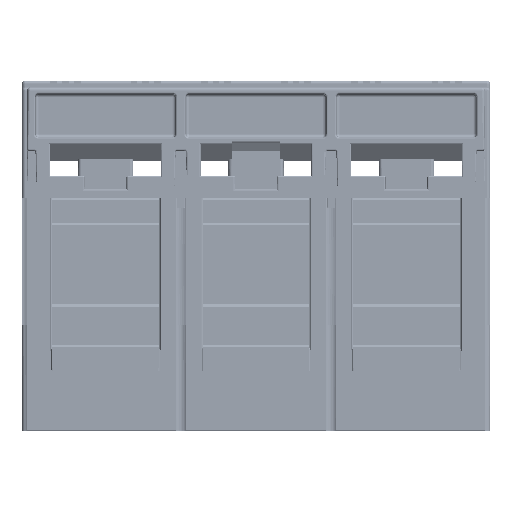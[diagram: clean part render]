
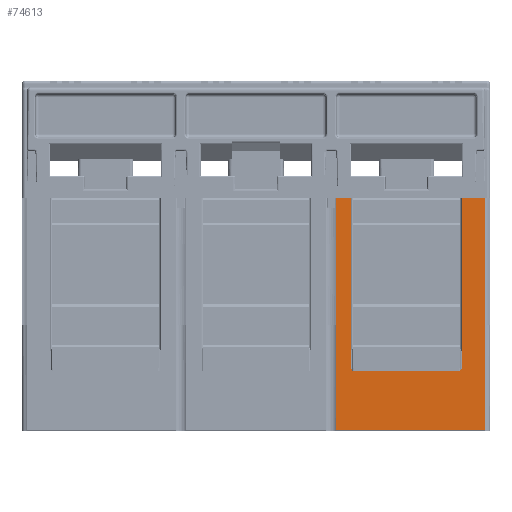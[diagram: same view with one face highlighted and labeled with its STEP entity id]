
A CAD part, front view. The second image highlights one B-rep face of the part: STEP entity #74613.
In plain terms, the highlighted planar face has unit normal (0, -1, 0).
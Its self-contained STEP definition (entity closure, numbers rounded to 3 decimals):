
#74529 = VERTEX_POINT ( 'NONE', #326181 ) ;
#74602 = EDGE_CURVE ( 'NONE', #177509, #74529, #326490, .T. ) ;
#74613 = ADVANCED_FACE ( 'NONE', ( #326439 ), #326522, .T. ) ;
#74615 = EDGE_LOOP ( 'NONE', ( #74619, #74623, #74633, #138156, #138162, #138170, #138187, #138199, #138218, #138225 ) ) ;
#74619 = ORIENTED_EDGE ( 'NONE', *, *, #74602, .T. ) ;
#74623 = ORIENTED_EDGE ( 'NONE', *, *, #74625, .T. ) ;
#74625 = EDGE_CURVE ( 'NONE', #74529, #74628, #326498, .T. ) ;
#74628 = VERTEX_POINT ( 'NONE', #326604 ) ;
#74633 = ORIENTED_EDGE ( 'NONE', *, *, #74640, .F. ) ;
#74640 = EDGE_CURVE ( 'NONE', #300859, #74628, #326583, .T. ) ;
#135828 = CARTESIAN_POINT ( 'NONE',  ( 60.5, -179., -16. ) ) ;
#135935 = CARTESIAN_POINT ( 'NONE',  ( 29.5, -179., -17. ) ) ;
#135947 = DIRECTION ( 'NONE',  ( -1., 0., 0. ) ) ;
#135949 = VECTOR ( 'NONE', #135947, 1000. ) ;
#135952 = CARTESIAN_POINT ( 'NONE',  ( 61.5, -179., -17. ) ) ;
#135953 = LINE ( 'NONE', #135952, #135949 ) ;
#135998 = CARTESIAN_POINT ( 'NONE',  ( 60.5, -179., -17. ) ) ;
#136003 = DIRECTION ( 'NONE',  ( 1., 0., 0. ) ) ;
#136005 = DIRECTION ( 'NONE',  ( 0., 1., 0. ) ) ;
#136008 = AXIS2_PLACEMENT_3D ( 'NONE', #135828, #136005, #136003 ) ;
#136011 = CIRCLE ( 'NONE', #136008, 1. ) ;
#136026 = DIRECTION ( 'NONE',  ( 1., 0., 0. ) ) ;
#136029 = DIRECTION ( 'NONE',  ( 0., 1., 0. ) ) ;
#136031 = CARTESIAN_POINT ( 'NONE',  ( 29.5, -179., -16. ) ) ;
#136032 = AXIS2_PLACEMENT_3D ( 'NONE', #136031, #136029, #136026 ) ;
#136035 = CIRCLE ( 'NONE', #136032, 1. ) ;
#138156 = ORIENTED_EDGE ( 'NONE', *, *, #300855, .T. ) ;
#138162 = ORIENTED_EDGE ( 'NONE', *, *, #301063, .T. ) ;
#138170 = ORIENTED_EDGE ( 'NONE', *, *, #138172, .T. ) ;
#138172 = EDGE_CURVE ( 'NONE', #301048, #138178, #136011, .T. ) ;
#138178 = VERTEX_POINT ( 'NONE', #135998 ) ;
#138187 = ORIENTED_EDGE ( 'NONE', *, *, #138190, .T. ) ;
#138190 = EDGE_CURVE ( 'NONE', #138178, #138193, #135953, .T. ) ;
#138193 = VERTEX_POINT ( 'NONE', #135935 ) ;
#138199 = ORIENTED_EDGE ( 'NONE', *, *, #138205, .T. ) ;
#138205 = EDGE_CURVE ( 'NONE', #138193, #177211, #136035, .T. ) ;
#138218 = ORIENTED_EDGE ( 'NONE', *, *, #177597, .F. ) ;
#138225 = ORIENTED_EDGE ( 'NONE', *, *, #177513, .T. ) ;
#177211 = VERTEX_POINT ( 'NONE', #197853 ) ;
#177389 = VERTEX_POINT ( 'NONE', #198691 ) ;
#177509 = VERTEX_POINT ( 'NONE', #199431 ) ;
#177513 = EDGE_CURVE ( 'NONE', #177389, #177509, #199616, .T. ) ;
#177597 = EDGE_CURVE ( 'NONE', #177389, #177211, #199986, .T. ) ;
#197853 = CARTESIAN_POINT ( 'NONE',  ( 28.5, -179., -16. ) ) ;
#198691 = CARTESIAN_POINT ( 'NONE',  ( 28.5, -179., 35. ) ) ;
#199431 = CARTESIAN_POINT ( 'NONE',  ( 24., -179., 35. ) ) ;
#199609 = DIRECTION ( 'NONE',  ( -1., 0., 0. ) ) ;
#199611 = VECTOR ( 'NONE', #199609, 1000. ) ;
#199615 = CARTESIAN_POINT ( 'NONE',  ( 28.5, -179., 35. ) ) ;
#199616 = LINE ( 'NONE', #199615, #199611 ) ;
#199972 = DIRECTION ( 'NONE',  ( 0., 0., -1. ) ) ;
#199974 = VECTOR ( 'NONE', #199972, 1000. ) ;
#199977 = CARTESIAN_POINT ( 'NONE',  ( 28.5, -179., 35. ) ) ;
#199986 = LINE ( 'NONE', #199977, #199974 ) ;
#233765 = CARTESIAN_POINT ( 'NONE',  ( 68.5, -179., 35. ) ) ;
#233766 = DIRECTION ( 'NONE',  ( -1., 0., 0. ) ) ;
#233768 = VECTOR ( 'NONE', #233766, 1000. ) ;
#233771 = CARTESIAN_POINT ( 'NONE',  ( 68.5, -179., 35. ) ) ;
#233774 = LINE ( 'NONE', #233771, #233768 ) ;
#234212 = DIRECTION ( 'NONE',  ( 0., 0., -1. ) ) ;
#234213 = VECTOR ( 'NONE', #234212, 1000. ) ;
#234214 = CARTESIAN_POINT ( 'NONE',  ( 61.5, -179., 35. ) ) ;
#234217 = LINE ( 'NONE', #234214, #234213 ) ;
#234233 = CARTESIAN_POINT ( 'NONE',  ( 61.5, -179., -16. ) ) ;
#234278 = CARTESIAN_POINT ( 'NONE',  ( 61.5, -179., 35. ) ) ;
#300855 = EDGE_CURVE ( 'NONE', #300859, #301097, #233774, .T. ) ;
#300859 = VERTEX_POINT ( 'NONE', #233765 ) ;
#301048 = VERTEX_POINT ( 'NONE', #234233 ) ;
#301063 = EDGE_CURVE ( 'NONE', #301097, #301048, #234217, .T. ) ;
#301097 = VERTEX_POINT ( 'NONE', #234278 ) ;
#326181 = CARTESIAN_POINT ( 'NONE',  ( 24., -179., -34.5 ) ) ;
#326439 = FACE_OUTER_BOUND ( 'NONE', #74615, .T. ) ;
#326485 = DIRECTION ( 'NONE',  ( 0., 0., -1. ) ) ;
#326487 = VECTOR ( 'NONE', #326485, 1000. ) ;
#326489 = CARTESIAN_POINT ( 'NONE',  ( 24., -179., 35. ) ) ;
#326490 = LINE ( 'NONE', #326489, #326487 ) ;
#326494 = DIRECTION ( 'NONE',  ( 1., 0., 0. ) ) ;
#326495 = VECTOR ( 'NONE', #326494, 1000. ) ;
#326496 = CARTESIAN_POINT ( 'NONE',  ( 68.5, -179., -34.5 ) ) ;
#326498 = LINE ( 'NONE', #326496, #326495 ) ;
#326508 = DIRECTION ( 'NONE',  ( 1., 0., 0. ) ) ;
#326510 = DIRECTION ( 'NONE',  ( 0., -1., 0. ) ) ;
#326513 = CARTESIAN_POINT ( 'NONE',  ( 68.5, -179., 35. ) ) ;
#326515 = AXIS2_PLACEMENT_3D ( 'NONE', #326513, #326510, #326508 ) ;
#326522 = PLANE ( 'NONE',  #326515 ) ;
#326576 = DIRECTION ( 'NONE',  ( 0., 0., -1. ) ) ;
#326578 = VECTOR ( 'NONE', #326576, 1000. ) ;
#326581 = CARTESIAN_POINT ( 'NONE',  ( 68.5, -179., 35. ) ) ;
#326583 = LINE ( 'NONE', #326581, #326578 ) ;
#326604 = CARTESIAN_POINT ( 'NONE',  ( 68.5, -179., -34.5 ) ) ;
